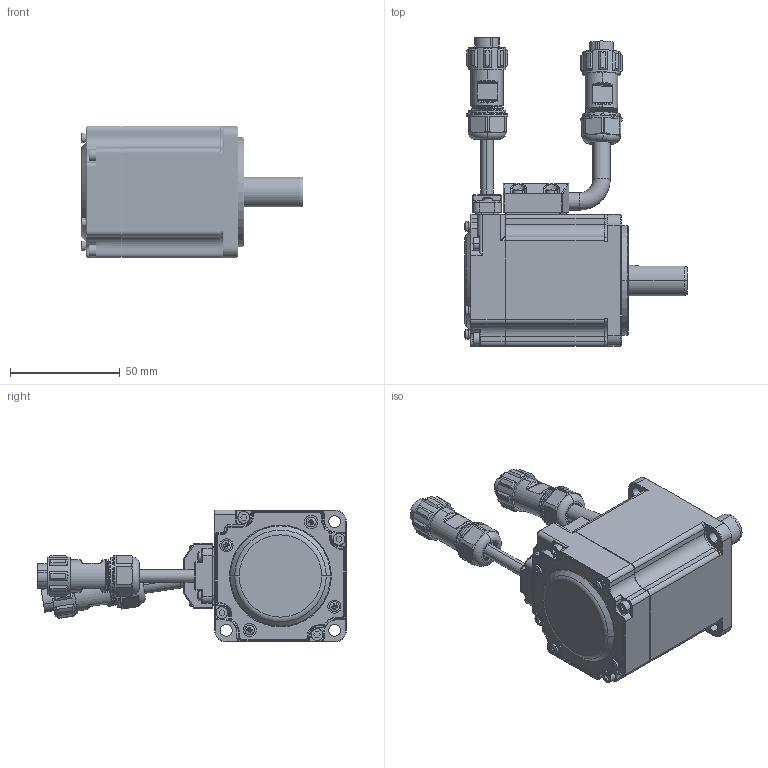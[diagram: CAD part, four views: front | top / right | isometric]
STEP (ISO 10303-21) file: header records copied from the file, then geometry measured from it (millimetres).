
FILE_DESCRIPTION (( 'STEP AP203' ), '1' );
FILE_NAME ('ALM06002H3H3-M17£¨200W48V£©.STEP', '2021-09-02T06:28:16', ( 'Owner' ), ( 'Organization' ), 'SwSTEP 2.0', 'SolidWorks 2018', '' );
FILE_SCHEMA (( 'CONFIG_CONTROL_DESIGN' ));
Products named in the file (1): ALM06002H3H3-M17（200W48V）
Bounding box: 101.6 x 140.6 x 60 mm (x, y, z)
Volume: 129500 mm3; surface area: 87762.9 mm2
Topology: 47 solids, 47 shells, 3723 faces, 9434 edges, 5903 vertices
Faces by surface type: plane 1500, cylinder 1018, bspline 539, cone 382, torus 238, sphere 46
Entity records: 157677 total; most frequent: CARTESIAN_POINT 72234, ORIENTED_EDGE 18706, DIRECTION 16306, EDGE_CURVE 9353, AXIS2_PLACEMENT_3D 6055, VERTEX_POINT 5892, LINE 4196, VECTOR 4196
